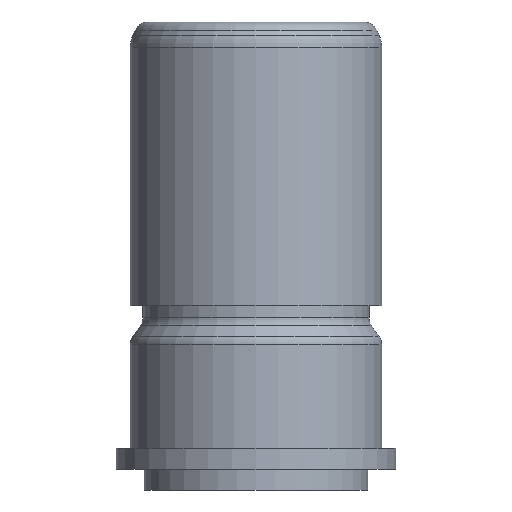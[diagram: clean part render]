
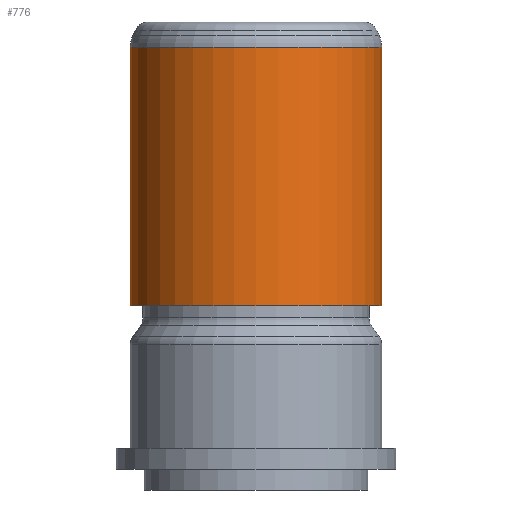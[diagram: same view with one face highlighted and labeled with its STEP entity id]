
A CAD part, front view. The second image highlights one B-rep face of the part: STEP entity #776.
In plain terms, the highlighted cylindrical face has radius 9 mm (diameter 18 mm), a partial arc.
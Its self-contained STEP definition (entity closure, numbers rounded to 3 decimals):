
#247=CARTESIAN_POINT('',(493.2,-273.,-204.217));
#248=DIRECTION('',(0.,0.,-1.));
#249=DIRECTION('',(1.,0.,0.));
#250=AXIS2_PLACEMENT_3D('',#247,#248,#249);
#262=DIRECTION('',(0.,0.,-1.));
#263=VECTOR('',#262,18.5);
#264=CARTESIAN_POINT('',(484.2,-273.,-204.217));
#265=LINE('',#264,#263);
#266=DIRECTION('',(0.,0.,1.));
#267=VECTOR('',#266,18.5);
#268=CARTESIAN_POINT('',(502.2,-273.,-222.717));
#269=LINE('',#268,#267);
#270=CARTESIAN_POINT('',(493.2,-273.,-222.717));
#271=DIRECTION('',(0.,0.,1.));
#272=DIRECTION('',(-1.,0.,0.));
#273=AXIS2_PLACEMENT_3D('',#270,#271,#272);
#360=CARTESIAN_POINT('',(484.2,-273.,-204.217));
#361=VERTEX_POINT('',#360);
#362=CARTESIAN_POINT('',(502.2,-273.,-204.217));
#363=VERTEX_POINT('',#362);
#364=CARTESIAN_POINT('',(484.2,-273.,-222.717));
#365=VERTEX_POINT('',#364);
#366=CARTESIAN_POINT('',(502.2,-273.,-222.717));
#367=VERTEX_POINT('',#366);
#764=CARTESIAN_POINT('',(493.2,-273.,-219.417));
#765=DIRECTION('',(0.,0.,1.));
#766=DIRECTION('',(-1.,0.,0.));
#767=AXIS2_PLACEMENT_3D('',#764,#765,#766);
#768=CYLINDRICAL_SURFACE('',#767,9.);
#770=ORIENTED_EDGE('',*,*,#769,.F.);
#771=ORIENTED_EDGE('',*,*,#754,.F.);
#772=ORIENTED_EDGE('',*,*,#731,.F.);
#773=ORIENTED_EDGE('',*,*,#758,.F.);
#774=EDGE_LOOP('',(#770,#771,#772,#773));
#775=FACE_OUTER_BOUND('',#774,.F.);
#776=ADVANCED_FACE('',(#775),#768,.T.);
#251=CIRCLE('',#250,9.);
#274=CIRCLE('',#273,9.);
#731=EDGE_CURVE('',#363,#361,#251,.T.);
#754=EDGE_CURVE('',#361,#365,#265,.T.);
#758=EDGE_CURVE('',#367,#363,#269,.T.);
#769=EDGE_CURVE('',#365,#367,#274,.T.);
